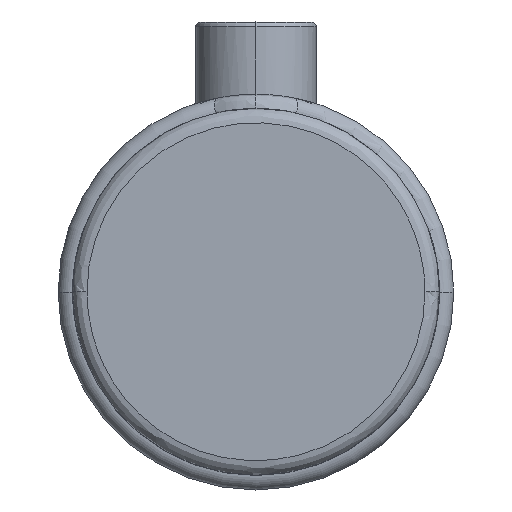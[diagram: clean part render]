
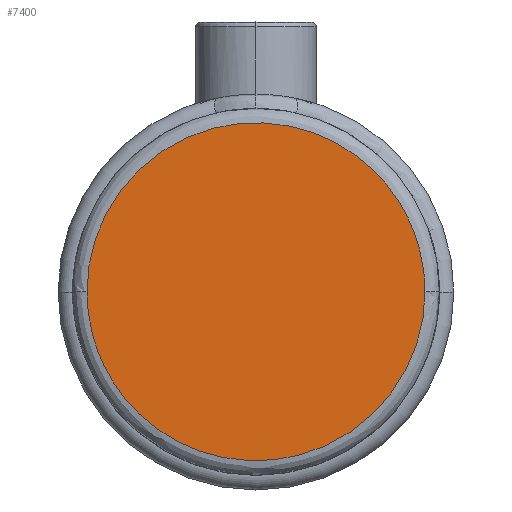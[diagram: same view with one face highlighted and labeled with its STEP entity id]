
A CAD part, top view. The second image highlights one B-rep face of the part: STEP entity #7400.
In plain terms, the highlighted planar face has unit normal (0, 0, 1).
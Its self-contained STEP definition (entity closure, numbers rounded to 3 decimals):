
#464 = CARTESIAN_POINT ( 'NONE',  ( -35.1, 0., 50. ) ) ;
#571 = VERTEX_POINT ( 'NONE', #10133 ) ;
#760 = EDGE_CURVE ( 'NONE', #1755, #571, #6300, .T. ) ;
#798 = DIRECTION ( 'NONE',  ( 0., 0., 1. ) ) ;
#898 =( BOUNDED_CURVE ( )  B_SPLINE_CURVE ( 3, ( #8853, #2161, #5580, #464 ),
 .UNSPECIFIED., .F., .F. ) 
 B_SPLINE_CURVE_WITH_KNOTS ( ( 4, 4 ),
 ( 0.25, 0.75 ),
 .UNSPECIFIED. ) 
 CURVE ( )  GEOMETRIC_REPRESENTATION_ITEM ( )  RATIONAL_B_SPLINE_CURVE ( ( 1., 0.333, 0.333, 1. ) ) 
 REPRESENTATION_ITEM ( '' )  );
#1222 = CARTESIAN_POINT ( 'NONE',  ( -35.1, 0., 50. ) ) ;
#1755 = VERTEX_POINT ( 'NONE', #1222 ) ;
#1800 = ORIENTED_EDGE ( 'NONE', *, *, #4759, .F. ) ;
#2161 = CARTESIAN_POINT ( 'NONE',  ( 35.1, -70.2, 50. ) ) ;
#4189 = CARTESIAN_POINT ( 'NONE',  ( 0., 19.05, 50. ) ) ;
#4570 = FACE_OUTER_BOUND ( 'NONE', #5237, .T. ) ;
#4759 = EDGE_CURVE ( 'NONE', #571, #1755, #898, .T. ) ;
#4787 = CARTESIAN_POINT ( 'NONE',  ( -35.1, 70.2, 50. ) ) ;
#4807 = CARTESIAN_POINT ( 'NONE',  ( 35.1, 70.2, 50. ) ) ;
#4822 = CARTESIAN_POINT ( 'NONE',  ( 35.1, 0., 50. ) ) ;
#5237 = EDGE_LOOP ( 'NONE', ( #1800, #10720 ) ) ;
#5580 = CARTESIAN_POINT ( 'NONE',  ( -35.1, -70.2, 50. ) ) ;
#5897 = CARTESIAN_POINT ( 'NONE',  ( -35.1, 0., 50. ) ) ;
#6300 =( BOUNDED_CURVE ( )  B_SPLINE_CURVE ( 3, ( #5897, #4787, #4807, #4822 ),
 .UNSPECIFIED., .F., .F. ) 
 B_SPLINE_CURVE_WITH_KNOTS ( ( 4, 4 ),
 ( 0.75, 1.25 ),
 .UNSPECIFIED. ) 
 CURVE ( )  GEOMETRIC_REPRESENTATION_ITEM ( )  RATIONAL_B_SPLINE_CURVE ( ( 1., 0.333, 0.333, 1. ) ) 
 REPRESENTATION_ITEM ( '' )  );
#6784 = DIRECTION ( 'NONE',  ( 1., 0., 0. ) ) ;
#7400 = ADVANCED_FACE ( 'NONE', ( #4570 ), #10819, .T. ) ;
#8853 = CARTESIAN_POINT ( 'NONE',  ( 35.1, 0., 50. ) ) ;
#10133 = CARTESIAN_POINT ( 'NONE',  ( 35.1, 0., 50. ) ) ;
#10294 = AXIS2_PLACEMENT_3D ( 'NONE', #4189, #798, #6784 ) ;
#10720 = ORIENTED_EDGE ( 'NONE', *, *, #760, .F. ) ;
#10819 = PLANE ( 'NONE',  #10294 ) ;
